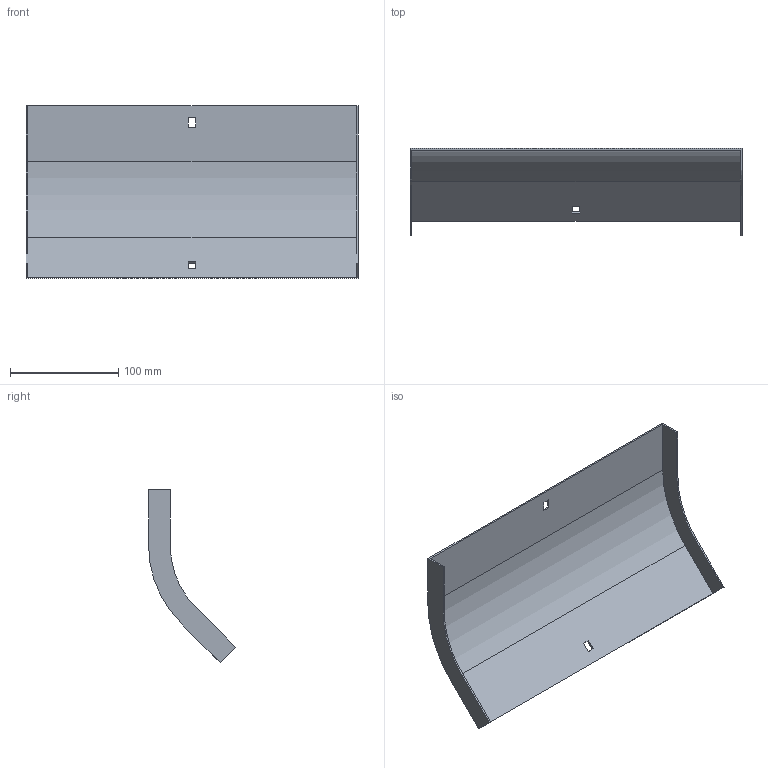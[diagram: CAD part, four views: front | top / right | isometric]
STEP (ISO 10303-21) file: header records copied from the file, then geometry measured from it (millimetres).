
FILE_DESCRIPTION (( 'STEP AP214' ), '1' );
FILE_NAME ('34G1B300.step', '2025-02-21T12:42:57', ( '' ), ( '' ), 'SwSTEP 2.0', 'SolidWorks 2023', '' );
FILE_SCHEMA (( 'AUTOMOTIVE_DESIGN' ));
Length unit declared in the file: millimetre
Products named in the file (1): 34G1B300
Bounding box: 307 x 80.32 x 159.76 mm (x, y, z)
Volume: 93408.4 mm3; surface area: 126172.5 mm2
Topology: 1 solids, 1 shells, 26 faces, 72 edges, 48 vertices
Faces by surface type: plane 22, cylinder 4
Entity records: 855 total; most frequent: CARTESIAN_POINT 147, ORIENTED_EDGE 144, DIRECTION 134, EDGE_CURVE 72, VECTOR 64, LINE 64, VERTEX_POINT 48, AXIS2_PLACEMENT_3D 35
